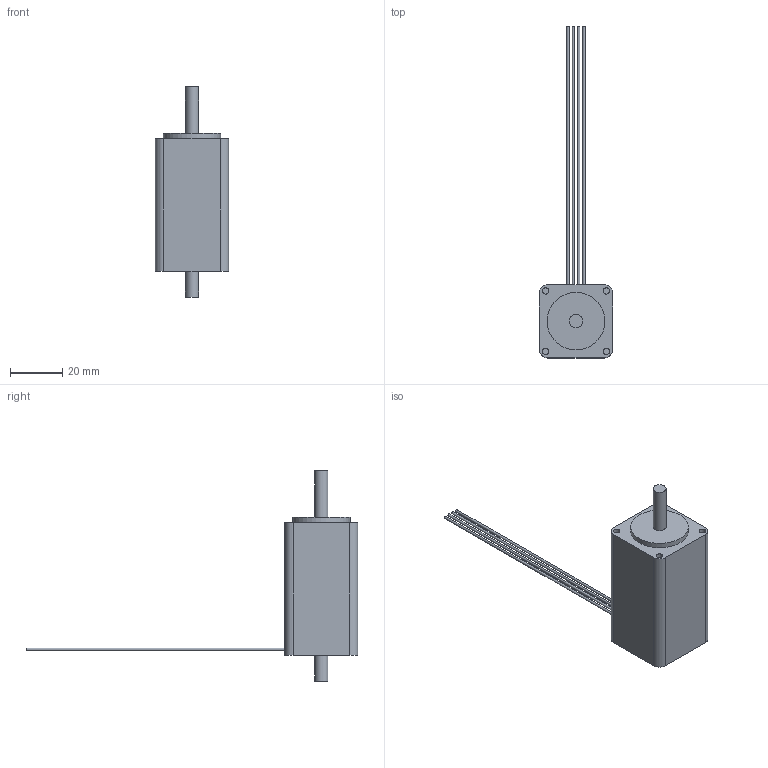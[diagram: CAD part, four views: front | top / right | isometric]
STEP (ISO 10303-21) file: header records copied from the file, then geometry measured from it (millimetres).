
FILE_DESCRIPTION((''),'2;1');
FILE_NAME('C:\Documents and Settings\rbadgerow\Desktop\updated web dwgs\ipt\211\211-20 dbl.stp','2008-10-26T10:21:36',('rbadgerow'),(''),'Autodesk Inventor 2009','Autodesk Inventor 2009','');
FILE_SCHEMA(('AUTOMOTIVE_DESIGN { 1 0 10303 214 1 1 1 1 }'));
Length unit declared in the file: inch
Products named in the file (1): 211-20 dbl
Bounding box: 27.94 x 126.66 x 80.26 mm (x, y, z)
Volume: 39647.2 mm3; surface area: 10245.9 mm2
Topology: 1 solids, 1 shells, 32 faces, 60 edges, 41 vertices
Faces by surface type: plane 17, cylinder 15
Full cylindrical faces by diameter (mm): 0.965 x4, 2.489 x4, 4.999 x2, 21.996 x1
Entity records: 850 total; most frequent: DIRECTION 142, CARTESIAN_POINT 117, ORIENTED_EDGE 92, AXIS2_PLACEMENT_3D 63, EDGE_LOOP 54, EDGE_CURVE 46, VERTEX_POINT 38, FACE_OUTER_BOUND 32
